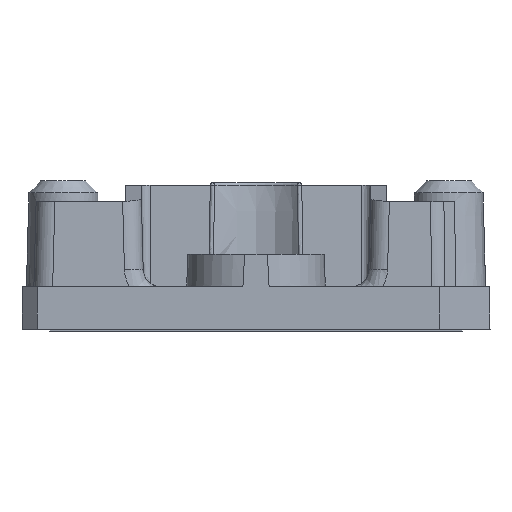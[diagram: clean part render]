
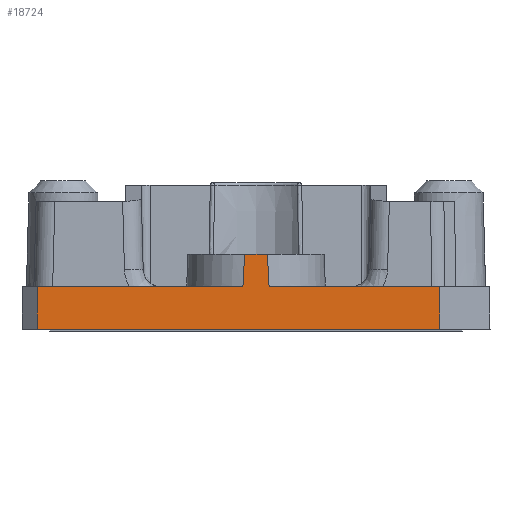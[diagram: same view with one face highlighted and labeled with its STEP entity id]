
A CAD part, left-side view. The second image highlights one B-rep face of the part: STEP entity #18724.
In plain terms, the highlighted planar face has unit normal (-1, 0, 0.018).
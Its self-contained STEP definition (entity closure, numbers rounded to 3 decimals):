
#1239=B_SPLINE_CURVE_WITH_KNOTS('',3,(#30737,#30738,#30739,#30740),
 .UNSPECIFIED.,.F.,.F.,(4,4),(0.,0.003),.UNSPECIFIED.);
#1242=B_SPLINE_CURVE_WITH_KNOTS('',3,(#30758,#30759,#30760,#30761),
 .UNSPECIFIED.,.F.,.F.,(4,4),(0.,0.003),.UNSPECIFIED.);
#3699=ORIENTED_EDGE('',*,*,#6979,.F.);
#3700=ORIENTED_EDGE('',*,*,#7099,.T.);
#3701=ORIENTED_EDGE('',*,*,#7033,.T.);
#3702=ORIENTED_EDGE('',*,*,#7100,.T.);
#3703=ORIENTED_EDGE('',*,*,#6956,.F.);
#3704=ORIENTED_EDGE('',*,*,#6838,.T.);
#3705=ORIENTED_EDGE('',*,*,#6870,.T.);
#3706=ORIENTED_EDGE('',*,*,#6844,.F.);
#6838=EDGE_CURVE('',#8406,#8405,#1239,.T.);
#6844=EDGE_CURVE('',#8410,#8411,#1242,.T.);
#6870=EDGE_CURVE('',#8405,#8411,#9557,.F.);
#6956=EDGE_CURVE('',#8406,#8497,#9594,.F.);
#6979=EDGE_CURVE('',#8515,#8410,#9610,.F.);
#7033=EDGE_CURVE('',#8564,#8563,#9636,.F.);
#7099=EDGE_CURVE('',#8515,#8564,#9687,.F.);
#7100=EDGE_CURVE('',#8563,#8497,#9688,.F.);
#8405=VERTEX_POINT('',#30736);
#8406=VERTEX_POINT('',#30741);
#8410=VERTEX_POINT('',#30757);
#8411=VERTEX_POINT('',#30762);
#8497=VERTEX_POINT('',#31101);
#8515=VERTEX_POINT('',#31151);
#8563=VERTEX_POINT('',#31262);
#8564=VERTEX_POINT('',#31264);
#9557=LINE('',#30840,#10645);
#9594=LINE('',#31100,#10682);
#9610=LINE('',#31152,#10698);
#9636=LINE('',#31263,#10724);
#9687=LINE('',#31398,#10775);
#9688=LINE('',#31399,#10776);
#10645=VECTOR('',#22095,1000.);
#10682=VECTOR('',#22214,1000.);
#10698=VECTOR('',#22246,1000.);
#10724=VECTOR('',#22328,1000.);
#10775=VECTOR('',#22435,1000.);
#10776=VECTOR('',#22436,1000.);
#11477=EDGE_LOOP('',(#3699,#3700,#3701,#3702,#3703,#3704,#3705,#3706));
#12303=FACE_BOUND('',#11477,.T.);
#12842=PLANE('',#19708);
#18724=ADVANCED_FACE('',(#12303),#12842,.T.);
#19708=AXIS2_PLACEMENT_3D('',#31397,#22433,#22434);
#22095=DIRECTION('',(0.,-1.,0.));
#22214=DIRECTION('',(0.,1.,0.));
#22246=DIRECTION('',(0.,1.,0.));
#22328=DIRECTION('',(0.,1.,0.));
#22433=DIRECTION('',(-1.,0.,0.017));
#22434=DIRECTION('',(0.017,0.,1.));
#22435=DIRECTION('',(0.017,-0.017,1.));
#22436=DIRECTION('',(-0.017,-0.007,-1.));
#30736=CARTESIAN_POINT('',(-40.895,-0.913,6.));
#30737=CARTESIAN_POINT('',(-40.941,-1.044,3.4));
#30738=CARTESIAN_POINT('',(-40.926,-1.003,4.267));
#30739=CARTESIAN_POINT('',(-40.91,-0.959,5.133));
#30740=CARTESIAN_POINT('',(-40.895,-0.913,6.));
#30741=CARTESIAN_POINT('',(-40.941,-1.044,3.4));
#30757=CARTESIAN_POINT('',(-40.941,1.044,3.4));
#30758=CARTESIAN_POINT('',(-40.941,1.044,3.4));
#30759=CARTESIAN_POINT('',(-40.926,1.003,4.267));
#30760=CARTESIAN_POINT('',(-40.91,0.959,5.133));
#30761=CARTESIAN_POINT('',(-40.895,0.913,6.));
#30762=CARTESIAN_POINT('',(-40.895,0.913,6.));
#30840=CARTESIAN_POINT('',(-40.895,0.,6.));
#31100=CARTESIAN_POINT('',(-40.941,0.,3.4));
#31101=CARTESIAN_POINT('',(-40.941,-14.675,3.4));
#31151=CARTESIAN_POINT('',(-40.941,17.43,3.4));
#31152=CARTESIAN_POINT('',(-40.941,0.,3.4));
#31262=CARTESIAN_POINT('',(-41.,-14.7,0.));
#31263=CARTESIAN_POINT('',(-41.,0.,0.));
#31264=CARTESIAN_POINT('',(-41.,17.49,0.));
#31397=CARTESIAN_POINT('',(-41.,0.,0.));
#31398=CARTESIAN_POINT('',(-40.995,17.484,0.305));
#31399=CARTESIAN_POINT('',(-40.998,-14.699,0.134));
